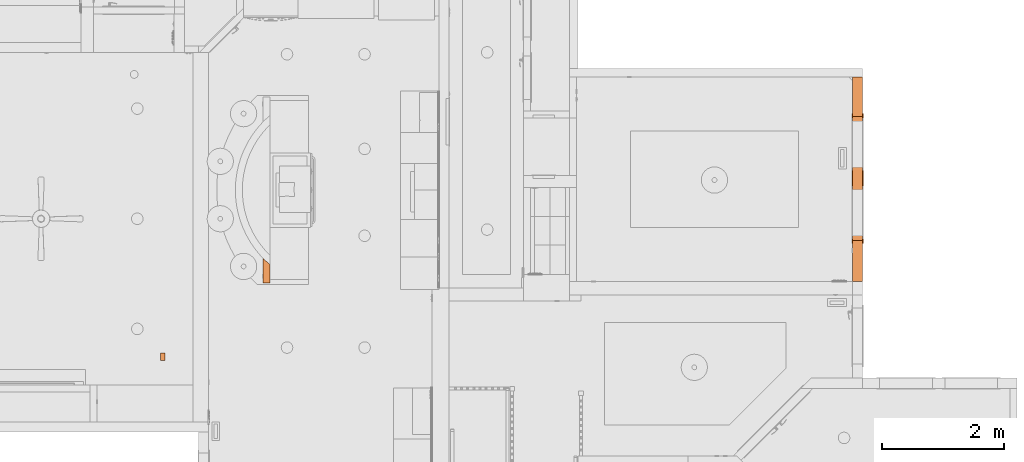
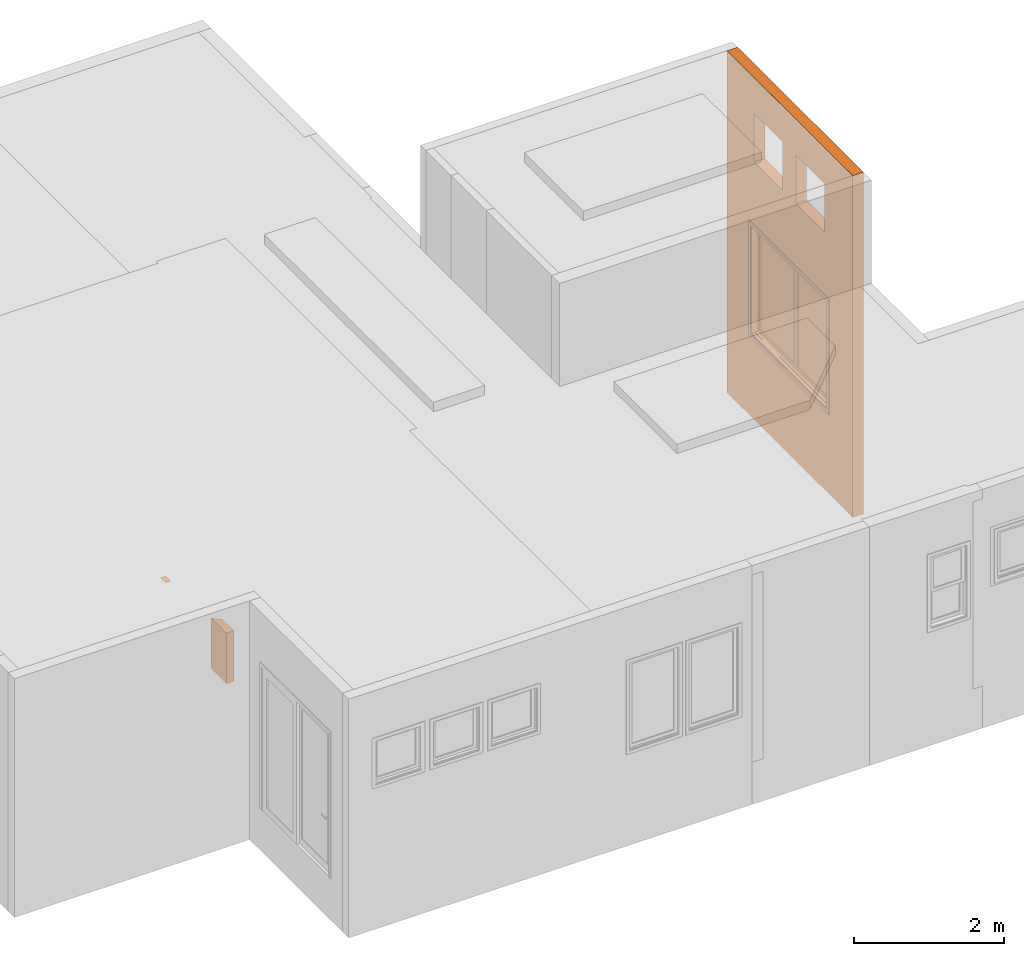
# One storey, part 102 of 103: 4 proxies.
"""IFC2X3 building model written with IfcOpenShell, lengths in inches."""

from ifc_helpers import new_model, entity, si_unit, converted_unit, derived_unit, money_unit, direction, frame, origin_with_axes, place, context, subcontext, project, spatial, faceted_brep, material, type_object, element, save


model = new_model("IFC2X3")

# Units and contexts
model_context = context("Model", 3, precision=0.00039370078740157, world=origin_with_axes(), true_north=direction((0.0, 1.0)))
plan_context = context("Plan", 3, precision=0.00039370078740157, world=origin_with_axes(), true_north=direction((0.0, 1.0)))
body_context = subcontext(model_context, "Body", "Model", "MODEL_VIEW")
ifc_project = project(units=[converted_unit("LENGTHUNIT", "INCH", entity("IfcPositiveLengthMeasure", 0.0254), si_unit("LENGTHUNIT", "METRE"), dimensions=[1, 0, 0, 0, 0, 0, 0]), converted_unit("AREAUNIT", "SQUARE_FOOT", entity("IfcPositiveLengthMeasure", 0.09290304), si_unit("AREAUNIT", "SQUARE_METRE"), dimensions=[2, 0, 0, 0, 0, 0, 0]), si_unit("PLANEANGLEUNIT", "RADIAN"), si_unit("SOLIDANGLEUNIT", "STERADIAN"), money_unit("USD"), converted_unit("TIMEUNIT", "Year", entity("IfcTimeMeasure", 31557600.0), si_unit("TIMEUNIT", "SECOND"), dimensions=[0, 0, 1, 0, 0, 0, 0]), si_unit("MASSUNIT", "GRAM", prefix="KILO"), si_unit("THERMODYNAMICTEMPERATUREUNIT", "DEGREE_CELSIUS"), si_unit("LUMINOUSINTENSITYUNIT", "LUMEN"), si_unit("ENERGYUNIT", "JOULE", prefix="MEGA"), derived_unit("SPECIFICHEATCAPACITYUNIT", [(si_unit("ENERGYUNIT", "JOULE"), 1), (si_unit("MASSUNIT", "GRAM", prefix="KILO"), -1), (si_unit("THERMODYNAMICTEMPERATUREUNIT", "KELVIN"), -1)])], contexts=[model_context, plan_context])

# Site, building, storey
site_placement = place(None, origin_with_axes())
site = spatial("IfcSite", under=ifc_project, at=site_placement, Name="Site", CompositionType="ELEMENT")
building_placement = place(site_placement, origin_with_axes())
building = spatial("IfcBuilding", under=site, at=building_placement, Name="Building", CompositionType="ELEMENT")
storey_placement = place(building_placement, frame((0.0, 0.0, 127.9999999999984), z_axis=(0.0, 0.0, 1.0), x_axis=(1.0, 0.0, 0.0)))
storey = spatial("IfcBuildingStorey", under=building, at=storey_placement, Name="Second Floor", CompositionType="ELEMENT", Elevation=128.0)

# Proxies
ifc_material = material(Name="Generic - Structural")
building_element_proxy_type_1 = type_object("IfcBuildingElementProxyType", Name="Generic - Structural 6 1/2\"", PredefinedType="NOTDEFINED")
proxy_1_placement = place(storey_placement, frame((421.4999999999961, 200.9999999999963, -26.99999999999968), z_axis=(0.0, 0.0, 1.0), x_axis=(0.0, 1.0, 0.0)))
element("IfcBuildingElementProxy", 1, at=proxy_1_placement, inside=storey, type_object=building_element_proxy_type_1, material=ifc_material, Name="SW - 093", context=body_context, shape_type="Brep", body=[
    faceted_brep([(0.0, 0.0, 26.99999999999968), (0.0, 0.0, 218.9999999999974), (131.9999999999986, 0.0, 218.9999999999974), (131.9999999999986, 0.0, 0.0), (0.0, 0.0, 0.0), (106.4934666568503, 0.0, 122.9999999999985), (26.49346665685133, 0.0, 122.9999999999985), (26.49346665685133, 0.0, 52.99999999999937), (106.4934666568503, 0.0, 52.99999999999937), (103.4934666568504, 0.0, 164.999999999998), (103.4934666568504, 0.0, 195.9999999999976), (73.49346665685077, 0.0, 195.9999999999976), (73.49346665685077, 0.0, 164.999999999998), (29.49346665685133, 0.0, 164.999999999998), (59.49346665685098, 0.0, 164.999999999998), (59.49346665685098, 0.0, 195.9999999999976), (29.49346665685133, 0.0, 195.9999999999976), (0.0, -6.499999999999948, 26.99999999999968), (0.0, -6.499999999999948, 152.9999999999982), (0.0, -6.499999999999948, 218.9999999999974), (0.0, -6.499999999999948, 0.0), (131.9999999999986, -6.499999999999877, 218.9999999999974), (131.9999999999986, -6.499999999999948, 0.0), (106.4934666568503, -6.499999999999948, 122.9999999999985), (26.49346665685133, -6.499999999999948, 122.9999999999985), (26.49346665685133, -6.499999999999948, 52.99999999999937), (106.4934666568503, -6.499999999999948, 52.99999999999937), (103.4934666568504, -6.499999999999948, 195.9999999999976), (103.4934666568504, -6.499999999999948, 164.999999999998), (73.49346665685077, -6.499999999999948, 195.9999999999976), (73.49346665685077, -6.499999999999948, 164.999999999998), (29.49346665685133, -6.499999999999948, 164.999999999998), (59.49346665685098, -6.499999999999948, 164.999999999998), (59.49346665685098, -6.499999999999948, 195.9999999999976), (29.49346665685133, -6.499999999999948, 195.9999999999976)], [[[0, 1, 2, 3, 4], [5, 6, 7, 8], [9, 10, 11, 12], [13, 14, 15, 16]], [[17, 18, 19, 1, 0, 4, 20]], [[21, 2, 1, 19]], [[3, 2, 21, 22]], [[4, 3, 22, 20]], [[6, 5, 23, 24]], [[7, 6, 24, 25]], [[8, 7, 25, 26]], [[5, 8, 26, 23]], [[27, 10, 9, 28]], [[29, 11, 10, 27]], [[30, 12, 11, 29]], [[28, 9, 12, 30]], [[31, 32, 14, 13]], [[32, 33, 15, 14]], [[33, 34, 16, 15]], [[34, 31, 13, 16]], [[20, 22, 21, 19, 18, 17], [23, 26, 25, 24], [29, 27, 28, 30], [31, 34, 33, 32]]]),
])
building_element_proxy_type_2 = type_object("IfcBuildingElementProxyType", Name="Generic - Structural 4 1/2\"", PredefinedType="NOTDEFINED")
proxy_2_placement = place(storey_placement, frame((45.99966177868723, 217.999138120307, -5.999999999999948), z_axis=(0.0, 0.0, 1.0), x_axis=(0.0, -1.0, 0.0)))
element("IfcBuildingElementProxy", 2, at=proxy_2_placement, inside=storey, type_object=building_element_proxy_type_2, material=ifc_material, Name="SW - 120", context=body_context, shape_type="Brep", body=[
    faceted_brep([(17.99999999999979, 0.0, 38.4978682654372), (17.99999999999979, 0.0, 5.999999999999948), (6.046905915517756, 0.0, 5.999999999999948), (6.046905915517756, 0.0, 38.4978682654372), (17.99999999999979, -4.499999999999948, 38.4978682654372), (17.99999999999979, -4.499999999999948, 5.999999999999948), (1.839840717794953, -4.499999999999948, 5.999999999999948), (3.227287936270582, -3.135848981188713, 5.999999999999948), (3.227287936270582, -3.135848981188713, 38.4978682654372), (1.839840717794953, -4.49999999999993, 38.4978682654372)], [[[0, 1, 2, 3]], [[4, 5, 1, 0]], [[6, 7, 2, 1, 5]], [[3, 2, 7, 8]], [[0, 3, 8, 9, 4]], [[9, 6, 5, 4]], [[8, 7, 6, 9]]]),
])
building_element_proxy_type_3 = type_object("IfcBuildingElementProxyType", Name="Generic - Structural 1/4\"", PredefinedType="NOTDEFINED")
proxy_3_placement = place(storey_placement, frame((-24.49593444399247, 150.0002160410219, 118.4999999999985), z_axis=(0.0, 0.0, 1.0), x_axis=(1.0, 0.0, 0.0)))
element("IfcBuildingElementProxy", 3, at=proxy_3_placement, inside=storey, type_object=building_element_proxy_type_3, material=ifc_material, Name="SLA - 003", context=body_context, shape_type="Brep", body=[
    faceted_brep([(0.0, 0.0, 0.0), (0.0, 0.0, -0.2500000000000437), (2.999999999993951, 6.058143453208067e-06, -0.2500000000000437), (2.999999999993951, 6.058143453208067e-06, 0.0), (-1.009690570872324e-05, 4.999999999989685, 0.0), (-1.009690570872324e-05, 4.999999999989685, -0.2500000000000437), (2.999989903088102, 5.000006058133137, -0.2500000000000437), (2.999989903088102, 5.000006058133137, 0.0)], [[[0, 1, 2, 3]], [[4, 5, 1, 0]], [[2, 1, 5, 6]], [[3, 2, 6, 7]], [[4, 0, 3, 7]], [[7, 6, 5, 4]]]),
])
building_element_proxy_type_4 = type_object("IfcBuildingElementProxyType", Name="W Double Sash", PredefinedType="NOTDEFINED")
proxy_4_placement = place(storey_placement, frame((421.4999999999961, 307.4934666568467, 25.99999999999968), z_axis=(0.0, 0.0, 1.0), x_axis=(0.0, -1.0, 0.0)))
element("IfcBuildingElementProxy", 4, at=proxy_4_placement, inside=storey, type_object=building_element_proxy_type_4, Name="WD - 001", context=body_context, shape_type="Brep", body=[
    faceted_brep([(0.0, 2.0, 0.0), (79.99999999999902, 2.0, 0.0), (79.99999999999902, 0.0, 0.0), (0.0, 0.0, 0.0), (0.0, 2.0, 69.99999999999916), (79.99999999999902, 2.0, 69.99999999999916), (0.4999999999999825, 2.0, 0.5), (79.49999999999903, 2.0, 0.5), (79.49999999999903, 2.0, 69.49999999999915), (0.4999999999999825, 2.0, 69.49999999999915), (79.99999999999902, 0.0, 69.99999999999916), (0.0, 0.0, 69.99999999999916), (0.4999999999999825, 0.0, 0.5), (0.4999999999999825, 0.0, 69.49999999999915), (79.49999999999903, 0.0, 69.49999999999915), (79.49999999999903, 0.0, 0.5)], [[[0, 1, 2, 3]], [[0, 4, 5, 1], [6, 7, 8, 9]], [[1, 5, 10, 2]], [[3, 2, 10, 11], [12, 13, 14, 15]], [[4, 0, 3, 11]], [[5, 4, 11, 10]], [[7, 6, 12, 15]], [[8, 7, 15, 14]], [[9, 8, 14, 13]], [[6, 9, 13, 12]]]),
    faceted_brep([(-1.999999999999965, -0.4999999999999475, -1.999999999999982), (-1.999999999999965, 0.0, -1.999999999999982), (0.0, 0.0, 0.0), (0.0, -0.4999999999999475, 0.0), (-1.999999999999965, -0.4999999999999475, 71.99999999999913), (-1.999999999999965, 0.0, 71.99999999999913), (0.0, 0.0, 69.99999999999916), (0.0, -0.4999999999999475, 69.99999999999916)], [[[0, 1, 2, 3]], [[4, 5, 1, 0]], [[1, 5, 6, 2]], [[3, 2, 6, 7]], [[0, 3, 7, 4]], [[7, 6, 5, 4]]]),
    faceted_brep([(81.99999999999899, -0.5000000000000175, 71.99999999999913), (81.99999999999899, 0.0, 71.99999999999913), (79.99999999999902, 0.0, 69.99999999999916), (79.99999999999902, -0.5000000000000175, 69.99999999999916), (81.99999999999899, -0.4999999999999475, -1.999999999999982), (81.99999999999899, 0.0, -1.999999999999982), (79.99999999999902, 0.0, 0.0), (79.99999999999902, -0.4999999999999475, 0.0)], [[[0, 1, 2, 3]], [[4, 5, 1, 0]], [[1, 5, 6, 2]], [[3, 2, 6, 7]], [[0, 3, 7, 4]], [[7, 6, 5, 4]]]),
    faceted_brep([(81.99999999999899, -0.4999999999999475, -1.999999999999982), (81.99999999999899, 0.0, -1.999999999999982), (79.99999999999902, 0.0, 0.0), (79.99999999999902, -0.4999999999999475, 0.0), (-1.999999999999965, -0.4999999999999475, -1.999999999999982), (-1.999999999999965, 0.0, -1.999999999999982), (0.0, 0.0, 0.0), (0.0, -0.4999999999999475, 0.0)], [[[0, 1, 2, 3]], [[4, 5, 1, 0]], [[1, 5, 6, 2]], [[3, 2, 6, 7]], [[0, 3, 7, 4]], [[7, 6, 5, 4]]]),
    faceted_brep([(-1.999999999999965, -0.4999999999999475, 71.99999999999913), (-1.999999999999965, 0.0, 71.99999999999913), (0.0, 0.0, 69.99999999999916), (0.0, -0.4999999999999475, 69.99999999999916), (81.99999999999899, -0.5000000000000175, 71.99999999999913), (81.99999999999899, 0.0, 71.99999999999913), (79.99999999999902, 0.0, 69.99999999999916), (79.99999999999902, -0.5000000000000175, 69.99999999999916)], [[[0, 1, 2, 3]], [[4, 5, 1, 0]], [[1, 5, 6, 2]], [[3, 2, 6, 7]], [[0, 3, 7, 4]], [[7, 6, 5, 4]]]),
    faceted_brep([(-1.999999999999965, 6.999999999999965, -2.249999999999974), (0.0, 6.999999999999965, -0.2499999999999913), (0.0, 6.499999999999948, -0.2499999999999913), (-1.999999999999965, 6.499999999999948, -2.249999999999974), (-1.999999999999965, 6.999999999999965, 71.99999999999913), (0.0, 6.999999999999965, 69.99999999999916), (0.0, 6.499999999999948, 69.99999999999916), (-1.999999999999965, 6.499999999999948, 71.99999999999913)], [[[0, 1, 2, 3]], [[0, 4, 5, 1]], [[1, 5, 6, 2]], [[3, 2, 6, 7]], [[4, 0, 3, 7]], [[5, 4, 7, 6]]]),
    faceted_brep([(81.99999999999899, 6.999999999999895, 71.99999999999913), (79.99999999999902, 6.999999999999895, 69.99999999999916), (79.99999999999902, 6.499999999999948, 69.99999999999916), (81.99999999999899, 6.499999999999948, 71.99999999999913), (81.99999999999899, 6.999999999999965, -2.249999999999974), (79.99999999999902, 6.999999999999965, -0.2499999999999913), (79.99999999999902, 6.499999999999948, -0.2499999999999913), (81.99999999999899, 6.499999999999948, -2.249999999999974)], [[[0, 1, 2, 3]], [[0, 4, 5, 1]], [[1, 5, 6, 2]], [[3, 2, 6, 7]], [[4, 0, 3, 7]], [[5, 4, 7, 6]]]),
    faceted_brep([(81.99999999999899, 6.999999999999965, -2.249999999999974), (79.99999999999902, 6.999999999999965, -0.2499999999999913), (79.99999999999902, 6.499999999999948, -0.2499999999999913), (81.99999999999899, 6.499999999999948, -2.249999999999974), (-1.999999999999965, 6.999999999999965, -2.249999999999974), (0.0, 6.999999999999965, -0.2499999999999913), (0.0, 6.499999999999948, -0.2499999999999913), (-1.999999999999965, 6.499999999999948, -2.249999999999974)], [[[0, 1, 2, 3]], [[0, 4, 5, 1]], [[1, 5, 6, 2]], [[3, 2, 6, 7]], [[4, 0, 3, 7]], [[5, 4, 7, 6]]]),
    faceted_brep([(-1.999999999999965, 6.999999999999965, 71.99999999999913), (0.0, 6.999999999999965, 69.99999999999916), (0.0, 6.499999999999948, 69.99999999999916), (-1.999999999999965, 6.499999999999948, 71.99999999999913), (81.99999999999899, 6.999999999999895, 71.99999999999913), (79.99999999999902, 6.999999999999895, 69.99999999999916), (79.99999999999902, 6.499999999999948, 69.99999999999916), (81.99999999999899, 6.499999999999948, 71.99999999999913)], [[[0, 1, 2, 3]], [[0, 4, 5, 1]], [[1, 5, 6, 2]], [[3, 2, 6, 7]], [[4, 0, 3, 7]], [[5, 4, 7, 6]]]),
    faceted_brep([(0.4996062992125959, 2.0, 0.7539370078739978), (0.4996062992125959, 2.0, 69.49606299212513), (0.0, 2.0, 69.49606299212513), (0.0, 2.0, 0.7539370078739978), (0.4996062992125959, 3.749999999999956, 69.49606299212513), (0.4996062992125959, 3.749999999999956, 0.7539370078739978), (0.2500000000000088, 3.749999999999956, 69.49606299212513), (0.2500000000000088, 6.499999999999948, 69.49606299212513), (0.0, 6.499999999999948, 69.49606299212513), (0.0, 6.499999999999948, 0.7539370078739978), (0.2500000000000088, 6.499999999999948, 0.7539370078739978), (0.2500000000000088, 3.749999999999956, 0.7539370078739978)], [[[0, 1, 2, 3]], [[4, 1, 0, 5]], [[1, 4, 6, 7, 8, 2]], [[9, 3, 2, 8]], [[5, 0, 3, 9, 10, 11]], [[4, 5, 11, 6]], [[11, 10, 7, 6]], [[9, 8, 7, 10]]]),
    faceted_brep([(79.50039370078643, 3.749999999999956, 69.49606299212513), (79.50039370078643, 2.0, 69.49606299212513), (79.99999999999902, 2.0, 69.49606299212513), (79.99999999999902, 6.499999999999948, 69.49606299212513), (79.74999999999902, 6.499999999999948, 69.49606299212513), (79.74999999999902, 3.749999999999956, 69.49606299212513), (79.50039370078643, 2.0, 0.7539370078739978), (79.50039370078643, 3.749999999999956, 0.7539370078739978), (79.99999999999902, 2.0, 0.7539370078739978), (79.99999999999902, 6.499999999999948, 0.7539370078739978), (79.74999999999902, 6.499999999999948, 0.7539370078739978), (79.74999999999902, 3.749999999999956, 0.7539370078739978)], [[[0, 1, 2, 3, 4, 5]], [[6, 1, 0, 7]], [[1, 6, 8, 2]], [[3, 2, 8, 9]], [[3, 9, 10, 4]], [[11, 5, 4, 10]], [[7, 0, 5, 11]], [[6, 7, 11, 10, 9, 8]]]),
    faceted_brep([(0.4996062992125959, 3.749999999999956, 0.7496062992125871), (39.99960629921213, 3.749999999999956, 0.7496062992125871), (79.50039370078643, 3.749999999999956, 0.7496062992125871), (79.50039370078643, 3.749999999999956, 0.7539370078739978), (79.74999999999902, 3.749999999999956, 0.7539370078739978), (79.74999999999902, 3.749999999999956, 0.5), (0.2500000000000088, 3.749999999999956, 0.5), (0.2500000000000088, 3.749999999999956, 0.7539370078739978), (0.4996062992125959, 3.749999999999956, 0.7539370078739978), (0.4996062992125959, 2.0, 0.7496062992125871), (39.99960629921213, 2.0, 0.7496062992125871), (79.50039370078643, 2.0, 0.7496062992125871), (79.50039370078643, 2.0, 0.7539370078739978), (79.99999999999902, 6.499999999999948, 0.7539370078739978), (79.74999999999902, 6.499999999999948, 0.7539370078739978), (79.99999999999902, 2.0, 0.7539370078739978), (79.74999999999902, 6.499999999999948, 0.5), (0.2500000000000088, 6.499999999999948, 0.5), (0.2500000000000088, 6.499999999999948, 0.7539370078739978), (0.4996062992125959, 2.0, 0.7539370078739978), (0.0, 6.499999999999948, 0.7539370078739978), (0.0, 2.0, 0.7539370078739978), (0.0, 2.0, 0.0), (79.99999999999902, 2.0, 0.0), (79.99999999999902, 6.499999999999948, 0.0), (0.0, 6.499999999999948, 0.0)], [[[0, 1, 2, 3, 4, 5, 6, 7, 8]], [[9, 10, 11, 2, 1, 0]], [[12, 3, 2, 11]], [[13, 14, 4, 3, 12, 15]], [[4, 14, 16, 5]], [[6, 5, 16, 17]], [[17, 18, 7, 6]], [[19, 8, 7, 18, 20, 21]], [[8, 19, 9, 0]], [[9, 19, 21, 22, 23, 15, 12, 11, 10]], [[13, 24, 25, 20, 18, 17, 16, 14]], [[15, 23, 24, 13]], [[22, 21, 20, 25]], [[23, 22, 25, 24]]]),
    faceted_brep([(0.4996062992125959, 2.0, 69.49606299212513), (0.4996062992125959, 2.0, 69.50039370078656), (39.99960629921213, 2.0, 69.50039370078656), (79.50039370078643, 2.0, 69.50039370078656), (79.50039370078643, 2.0, 69.49606299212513), (79.99999999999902, 2.0, 69.49606299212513), (79.99999999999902, 2.0, 69.99999999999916), (0.0, 2.0, 69.99999999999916), (0.0, 2.0, 69.49606299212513), (0.4996062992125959, 3.749999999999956, 69.49606299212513), (0.4996062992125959, 3.749999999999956, 69.50039370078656), (39.99960629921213, 3.749999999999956, 69.50039370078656), (79.50039370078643, 3.749999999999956, 69.50039370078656), (79.50039370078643, 3.749999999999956, 69.49606299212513), (79.74999999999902, 6.499999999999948, 69.49606299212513), (79.99999999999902, 6.499999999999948, 69.49606299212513), (79.74999999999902, 3.749999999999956, 69.49606299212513), (79.99999999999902, 6.499999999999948, 69.99999999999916), (0.0, 6.499999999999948, 69.99999999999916), (0.0, 6.499999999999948, 69.49606299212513), (0.2500000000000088, 6.499999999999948, 69.49606299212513), (0.2500000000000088, 3.749999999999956, 69.49606299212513), (0.2500000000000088, 3.749999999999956, 69.74999999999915), (79.74999999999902, 3.749999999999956, 69.74999999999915), (79.74999999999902, 6.499999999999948, 69.74999999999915), (0.2500000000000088, 6.499999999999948, 69.74999999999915)], [[[0, 1, 2, 3, 4, 5, 6, 7, 8]], [[1, 0, 9, 10]], [[2, 1, 10, 11, 12, 3]], [[3, 12, 13, 4]], [[14, 15, 5, 4, 13, 16]], [[6, 5, 15, 17]], [[7, 6, 17, 18]], [[8, 7, 18, 19]], [[9, 0, 8, 19, 20, 21]], [[10, 9, 21, 22, 23, 16, 13, 12, 11]], [[20, 19, 18, 17, 15, 14, 24, 25]], [[23, 24, 14, 16]], [[21, 20, 25, 22]], [[22, 25, 24, 23]]]),
    faceted_brep([(41.7499999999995, 3.749999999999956, 2.499999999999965), (41.7499999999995, 4.62499999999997, 2.499999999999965), (41.7499999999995, 4.62499999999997, 67.74999999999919), (41.7499999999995, 3.749999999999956, 67.74999999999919), (39.7499999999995, 3.749999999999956, 2.499999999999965), (39.7499999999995, 4.62499999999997, 2.499999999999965), (39.7499999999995, 4.62499999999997, 67.74999999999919), (39.7499999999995, 3.749999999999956, 67.74999999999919)], [[[0, 1, 2, 3]], [[4, 5, 1, 0]], [[1, 5, 6, 2]], [[3, 2, 6, 7]], [[0, 3, 7, 4]], [[7, 6, 5, 4]]]),
    faceted_brep([(79.74999999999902, 3.749999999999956, 2.499999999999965), (79.74999999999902, 4.62499999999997, 2.499999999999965), (79.74999999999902, 4.62499999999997, 67.74999999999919), (79.74999999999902, 3.749999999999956, 67.74999999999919), (77.74999999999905, 3.749999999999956, 2.499999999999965), (77.74999999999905, 4.62499999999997, 2.499999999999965), (77.74999999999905, 4.62499999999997, 67.74999999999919), (77.74999999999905, 3.749999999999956, 67.74999999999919)], [[[0, 1, 2, 3]], [[4, 5, 1, 0]], [[1, 5, 6, 2]], [[3, 2, 6, 7]], [[0, 3, 7, 4]], [[7, 6, 5, 4]]]),
    faceted_brep([(79.74999999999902, 3.749999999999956, 0.5), (79.74999999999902, 4.62499999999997, 0.5), (79.74999999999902, 4.62499999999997, 2.499999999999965), (79.74999999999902, 3.749999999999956, 2.499999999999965), (39.7499999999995, 3.749999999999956, 0.5), (39.7499999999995, 4.62499999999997, 0.5), (39.7499999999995, 4.62499999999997, 2.499999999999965), (41.7499999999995, 4.62499999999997, 2.499999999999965), (58.74999999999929, 4.62499999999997, 2.499999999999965), (60.74999999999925, 4.62499999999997, 2.499999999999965), (77.74999999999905, 4.62499999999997, 2.499999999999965), (77.74999999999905, 3.749999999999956, 2.499999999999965), (60.74999999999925, 3.749999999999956, 2.499999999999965), (58.74999999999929, 3.749999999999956, 2.499999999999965), (41.7499999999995, 3.749999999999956, 2.499999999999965), (39.7499999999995, 3.749999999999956, 2.499999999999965)], [[[0, 1, 2, 3]], [[4, 5, 1, 0]], [[1, 5, 6, 7, 8, 9, 10, 2]], [[3, 2, 10, 11]], [[0, 3, 11, 12, 13, 14, 15, 4]], [[15, 6, 5, 4]], [[14, 7, 6, 15]], [[13, 8, 7, 14]], [[12, 9, 8, 13]], [[11, 10, 9, 12]]]),
    faceted_brep([(39.7499999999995, 3.749999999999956, 69.74999999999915), (39.7499999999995, 4.62499999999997, 69.74999999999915), (39.7499999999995, 4.62499999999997, 67.74999999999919), (39.7499999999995, 3.749999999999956, 67.74999999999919), (79.74999999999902, 3.749999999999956, 69.74999999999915), (79.74999999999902, 4.62499999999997, 69.74999999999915), (79.74999999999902, 4.62499999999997, 67.74999999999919), (77.74999999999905, 4.62499999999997, 67.74999999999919), (60.74999999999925, 4.62499999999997, 67.74999999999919), (58.74999999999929, 4.62499999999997, 67.74999999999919), (41.7499999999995, 4.62499999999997, 67.74999999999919), (41.7499999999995, 3.749999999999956, 67.74999999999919), (58.74999999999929, 3.749999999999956, 67.74999999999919), (60.74999999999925, 3.749999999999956, 67.74999999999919), (77.74999999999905, 3.749999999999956, 67.74999999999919), (79.74999999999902, 3.749999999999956, 67.74999999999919)], [[[0, 1, 2, 3]], [[4, 5, 1, 0]], [[1, 5, 6, 7, 8, 9, 10, 2]], [[3, 2, 10, 11]], [[0, 3, 11, 12, 13, 14, 15, 4]], [[15, 6, 5, 4]], [[14, 7, 6, 15]], [[13, 8, 7, 14]], [[12, 9, 8, 13]], [[11, 10, 9, 12]]]),
    faceted_brep([(41.7499999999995, 4.62499999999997, 2.499999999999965), (41.7499999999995, 5.499999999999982, 2.499999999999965), (41.7499999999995, 5.499999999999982, 67.74999999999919), (41.7499999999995, 4.62499999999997, 67.74999999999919), (39.7499999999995, 4.62499999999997, 2.499999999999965), (39.7499999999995, 5.499999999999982, 2.499999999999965), (39.7499999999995, 5.499999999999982, 67.74999999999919), (39.7499999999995, 4.62499999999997, 67.74999999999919)], [[[0, 1, 2, 3]], [[4, 5, 1, 0]], [[1, 5, 6, 2]], [[3, 2, 6, 7]], [[0, 3, 7, 4]], [[7, 6, 5, 4]]]),
    faceted_brep([(79.74999999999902, 4.62499999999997, 2.499999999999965), (79.74999999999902, 5.499999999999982, 2.499999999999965), (79.74999999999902, 5.499999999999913, 67.74999999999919), (79.74999999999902, 4.62499999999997, 67.74999999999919), (77.74999999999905, 4.62499999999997, 2.499999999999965), (77.74999999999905, 5.499999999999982, 2.499999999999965), (77.74999999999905, 5.499999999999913, 67.74999999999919), (77.74999999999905, 4.62499999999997, 67.74999999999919)], [[[0, 1, 2, 3]], [[4, 5, 1, 0]], [[1, 5, 6, 2]], [[3, 2, 6, 7]], [[0, 3, 7, 4]], [[7, 6, 5, 4]]]),
    faceted_brep([(79.74999999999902, 4.62499999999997, 0.5), (79.74999999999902, 5.499999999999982, 0.5), (79.74999999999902, 5.499999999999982, 2.499999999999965), (79.74999999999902, 4.62499999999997, 2.499999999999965), (39.7499999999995, 4.62499999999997, 0.5), (39.7499999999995, 5.499999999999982, 0.5), (39.7499999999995, 5.499999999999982, 2.499999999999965), (41.7499999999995, 5.499999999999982, 2.499999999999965), (58.74999999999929, 5.499999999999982, 2.499999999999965), (60.74999999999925, 5.499999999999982, 2.499999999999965), (77.74999999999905, 5.499999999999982, 2.499999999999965), (77.74999999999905, 4.62499999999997, 2.499999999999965), (60.74999999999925, 4.62499999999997, 2.499999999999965), (58.74999999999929, 4.62499999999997, 2.499999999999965), (41.7499999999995, 4.62499999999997, 2.499999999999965), (39.7499999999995, 4.62499999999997, 2.499999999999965)], [[[0, 1, 2, 3]], [[4, 5, 1, 0]], [[1, 5, 6, 7, 8, 9, 10, 2]], [[3, 2, 10, 11]], [[0, 3, 11, 12, 13, 14, 15, 4]], [[15, 6, 5, 4]], [[14, 7, 6, 15]], [[13, 8, 7, 14]], [[12, 9, 8, 13]], [[11, 10, 9, 12]]]),
    faceted_brep([(39.7499999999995, 4.62499999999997, 69.74999999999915), (39.7499999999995, 5.499999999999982, 69.74999999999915), (39.7499999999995, 5.499999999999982, 67.74999999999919), (39.7499999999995, 4.62499999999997, 67.74999999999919), (79.74999999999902, 4.62499999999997, 69.74999999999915), (79.74999999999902, 5.499999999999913, 69.74999999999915), (79.74999999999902, 5.499999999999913, 67.74999999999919), (77.74999999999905, 5.499999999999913, 67.74999999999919), (60.74999999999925, 5.499999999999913, 67.74999999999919), (58.74999999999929, 5.499999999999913, 67.74999999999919), (41.7499999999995, 5.499999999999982, 67.74999999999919), (41.7499999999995, 4.62499999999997, 67.74999999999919), (58.74999999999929, 4.62499999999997, 67.74999999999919), (60.74999999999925, 4.62499999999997, 67.74999999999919), (77.74999999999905, 4.62499999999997, 67.74999999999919), (79.74999999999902, 4.62499999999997, 67.74999999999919)], [[[0, 1, 2, 3]], [[4, 5, 1, 0]], [[1, 5, 6, 7, 8, 9, 10, 2]], [[3, 2, 10, 11]], [[0, 3, 11, 12, 13, 14, 15, 4]], [[15, 6, 5, 4]], [[14, 7, 6, 15]], [[13, 8, 7, 14]], [[12, 9, 8, 13]], [[11, 10, 9, 12]]]),
    faceted_brep([(41.7499999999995, 4.499999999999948, 2.499999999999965), (41.7499999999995, 4.749999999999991, 2.499999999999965), (77.74999999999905, 4.749999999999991, 2.499999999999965), (77.74999999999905, 4.499999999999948, 2.499999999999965), (41.7499999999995, 4.499999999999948, 67.74999999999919), (41.7499999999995, 4.749999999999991, 67.74999999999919), (77.74999999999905, 4.749999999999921, 67.74999999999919), (77.74999999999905, 4.499999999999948, 67.74999999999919)], [[[0, 1, 2, 3]], [[4, 5, 1, 0]], [[1, 5, 6, 2]], [[3, 2, 6, 7]], [[0, 3, 7, 4]], [[7, 6, 5, 4]]]),
    faceted_brep([(2.249999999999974, 3.749999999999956, 2.499999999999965), (2.249999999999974, 4.62499999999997, 2.499999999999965), (2.249999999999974, 4.62499999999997, 67.74999999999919), (2.249999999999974, 3.749999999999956, 67.74999999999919), (0.2500000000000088, 3.749999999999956, 2.499999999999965), (0.2500000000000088, 4.62499999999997, 2.499999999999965), (0.2500000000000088, 4.62499999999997, 67.74999999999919), (0.2500000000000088, 3.749999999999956, 67.74999999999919)], [[[0, 1, 2, 3]], [[4, 5, 1, 0]], [[1, 5, 6, 2]], [[3, 2, 6, 7]], [[0, 3, 7, 4]], [[7, 6, 5, 4]]]),
    faceted_brep([(40.24999999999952, 3.749999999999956, 2.499999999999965), (40.24999999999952, 4.62499999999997, 2.499999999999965), (40.24999999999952, 4.62499999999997, 67.74999999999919), (40.24999999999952, 3.749999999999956, 67.74999999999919), (38.24999999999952, 3.749999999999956, 2.499999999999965), (38.24999999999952, 4.62499999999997, 2.499999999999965), (38.24999999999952, 4.62499999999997, 67.74999999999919), (38.24999999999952, 3.749999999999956, 67.74999999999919)], [[[0, 1, 2, 3]], [[4, 5, 1, 0]], [[1, 5, 6, 2]], [[3, 2, 6, 7]], [[0, 3, 7, 4]], [[7, 6, 5, 4]]]),
    faceted_brep([(40.24999999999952, 3.749999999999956, 0.5), (40.24999999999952, 4.62499999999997, 0.5), (40.24999999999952, 4.62499999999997, 2.499999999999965), (40.24999999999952, 3.749999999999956, 2.499999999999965), (0.2500000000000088, 3.749999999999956, 0.5), (0.2500000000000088, 4.62499999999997, 0.5), (0.2500000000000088, 4.62499999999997, 2.499999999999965), (2.249999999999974, 4.62499999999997, 2.499999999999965), (19.24999999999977, 4.62499999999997, 2.499999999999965), (21.24999999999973, 4.62499999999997, 2.499999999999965), (38.24999999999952, 4.62499999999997, 2.499999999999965), (38.24999999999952, 3.749999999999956, 2.499999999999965), (21.24999999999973, 3.749999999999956, 2.499999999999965), (19.24999999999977, 3.749999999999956, 2.499999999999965), (2.249999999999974, 3.749999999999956, 2.499999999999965), (0.2500000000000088, 3.749999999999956, 2.499999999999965)], [[[0, 1, 2, 3]], [[4, 5, 1, 0]], [[1, 5, 6, 7, 8, 9, 10, 2]], [[3, 2, 10, 11]], [[0, 3, 11, 12, 13, 14, 15, 4]], [[15, 6, 5, 4]], [[14, 7, 6, 15]], [[13, 8, 7, 14]], [[12, 9, 8, 13]], [[11, 10, 9, 12]]]),
    faceted_brep([(0.2500000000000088, 3.749999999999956, 69.74999999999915), (0.2500000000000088, 4.62499999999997, 69.74999999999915), (0.2500000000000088, 4.62499999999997, 67.74999999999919), (0.2500000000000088, 3.749999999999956, 67.74999999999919), (40.24999999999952, 3.749999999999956, 69.74999999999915), (40.24999999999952, 4.62499999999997, 69.74999999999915), (40.24999999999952, 4.62499999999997, 67.74999999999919), (38.24999999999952, 4.62499999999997, 67.74999999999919), (21.24999999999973, 4.62499999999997, 67.74999999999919), (19.24999999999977, 4.62499999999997, 67.74999999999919), (2.249999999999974, 4.62499999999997, 67.74999999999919), (2.249999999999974, 3.749999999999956, 67.74999999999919), (19.24999999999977, 3.749999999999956, 67.74999999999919), (21.24999999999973, 3.749999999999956, 67.74999999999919), (38.24999999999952, 3.749999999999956, 67.74999999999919), (40.24999999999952, 3.749999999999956, 67.74999999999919)], [[[0, 1, 2, 3]], [[4, 5, 1, 0]], [[1, 5, 6, 7, 8, 9, 10, 2]], [[3, 2, 10, 11]], [[0, 3, 11, 12, 13, 14, 15, 4]], [[15, 6, 5, 4]], [[14, 7, 6, 15]], [[13, 8, 7, 14]], [[12, 9, 8, 13]], [[11, 10, 9, 12]]]),
    faceted_brep([(2.249999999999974, 4.62499999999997, 2.499999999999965), (2.249999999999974, 5.499999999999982, 2.499999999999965), (2.249999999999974, 5.499999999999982, 67.74999999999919), (2.249999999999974, 4.62499999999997, 67.74999999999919), (0.2500000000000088, 4.62499999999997, 2.499999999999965), (0.2500000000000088, 5.499999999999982, 2.499999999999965), (0.2500000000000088, 5.499999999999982, 67.74999999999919), (0.2500000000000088, 4.62499999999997, 67.74999999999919)], [[[0, 1, 2, 3]], [[4, 5, 1, 0]], [[1, 5, 6, 2]], [[3, 2, 6, 7]], [[0, 3, 7, 4]], [[7, 6, 5, 4]]]),
    faceted_brep([(40.24999999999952, 4.62499999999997, 2.499999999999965), (40.24999999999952, 5.499999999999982, 2.499999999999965), (40.24999999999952, 5.499999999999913, 67.74999999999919), (40.24999999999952, 4.62499999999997, 67.74999999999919), (38.24999999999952, 4.62499999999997, 2.499999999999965), (38.24999999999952, 5.499999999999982, 2.499999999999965), (38.24999999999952, 5.499999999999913, 67.74999999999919), (38.24999999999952, 4.62499999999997, 67.74999999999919)], [[[0, 1, 2, 3]], [[4, 5, 1, 0]], [[1, 5, 6, 2]], [[3, 2, 6, 7]], [[0, 3, 7, 4]], [[7, 6, 5, 4]]]),
    faceted_brep([(40.24999999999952, 4.62499999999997, 0.5), (40.24999999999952, 5.499999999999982, 0.5), (40.24999999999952, 5.499999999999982, 2.499999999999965), (40.24999999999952, 4.62499999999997, 2.499999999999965), (0.2500000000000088, 4.62499999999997, 0.5), (0.2500000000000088, 5.499999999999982, 0.5), (0.2500000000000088, 5.499999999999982, 2.499999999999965), (2.249999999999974, 5.499999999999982, 2.499999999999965), (19.24999999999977, 5.499999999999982, 2.499999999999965), (21.24999999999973, 5.499999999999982, 2.499999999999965), (38.24999999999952, 5.499999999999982, 2.499999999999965), (38.24999999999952, 4.62499999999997, 2.499999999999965), (21.24999999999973, 4.62499999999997, 2.499999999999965), (19.24999999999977, 4.62499999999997, 2.499999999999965), (2.249999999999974, 4.62499999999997, 2.499999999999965), (0.2500000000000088, 4.62499999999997, 2.499999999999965)], [[[0, 1, 2, 3]], [[4, 5, 1, 0]], [[1, 5, 6, 7, 8, 9, 10, 2]], [[3, 2, 10, 11]], [[0, 3, 11, 12, 13, 14, 15, 4]], [[15, 6, 5, 4]], [[14, 7, 6, 15]], [[13, 8, 7, 14]], [[12, 9, 8, 13]], [[11, 10, 9, 12]]]),
    faceted_brep([(0.2500000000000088, 4.62499999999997, 69.74999999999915), (0.2500000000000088, 5.499999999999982, 69.74999999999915), (0.2500000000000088, 5.499999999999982, 67.74999999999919), (0.2500000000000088, 4.62499999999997, 67.74999999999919), (40.24999999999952, 4.62499999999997, 69.74999999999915), (40.24999999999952, 5.499999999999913, 69.74999999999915), (40.24999999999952, 5.499999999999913, 67.74999999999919), (38.24999999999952, 5.499999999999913, 67.74999999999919), (21.24999999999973, 5.499999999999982, 67.74999999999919), (19.24999999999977, 5.499999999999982, 67.74999999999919), (2.249999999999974, 5.499999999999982, 67.74999999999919), (2.249999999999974, 4.62499999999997, 67.74999999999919), (19.24999999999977, 4.62499999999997, 67.74999999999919), (21.24999999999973, 4.62499999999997, 67.74999999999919), (38.24999999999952, 4.62499999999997, 67.74999999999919), (40.24999999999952, 4.62499999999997, 67.74999999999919)], [[[0, 1, 2, 3]], [[4, 5, 1, 0]], [[1, 5, 6, 7, 8, 9, 10, 2]], [[3, 2, 10, 11]], [[0, 3, 11, 12, 13, 14, 15, 4]], [[15, 6, 5, 4]], [[14, 7, 6, 15]], [[13, 8, 7, 14]], [[12, 9, 8, 13]], [[11, 10, 9, 12]]]),
    faceted_brep([(2.249999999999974, 4.499999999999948, 2.499999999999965), (2.249999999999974, 4.749999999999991, 2.499999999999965), (38.24999999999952, 4.749999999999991, 2.499999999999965), (38.24999999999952, 4.499999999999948, 2.499999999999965), (2.249999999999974, 4.499999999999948, 67.74999999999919), (2.249999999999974, 4.749999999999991, 67.74999999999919), (38.24999999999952, 4.749999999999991, 67.74999999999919), (38.24999999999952, 4.499999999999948, 67.74999999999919)], [[[0, 1, 2, 3]], [[4, 5, 1, 0]], [[1, 5, 6, 2]], [[3, 2, 6, 7]], [[0, 3, 7, 4]], [[7, 6, 5, 4]]]),
])

save(model, "model.ifc")
